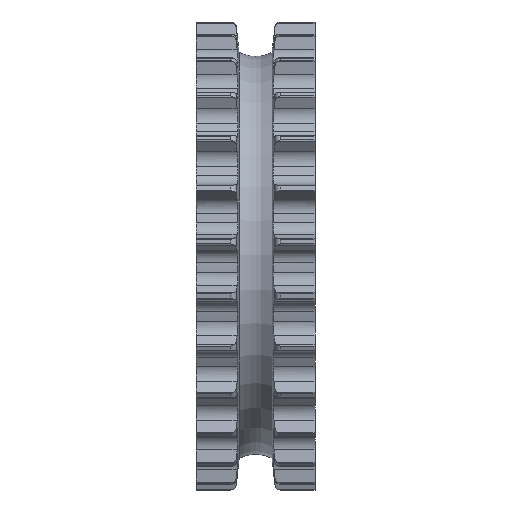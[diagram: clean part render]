
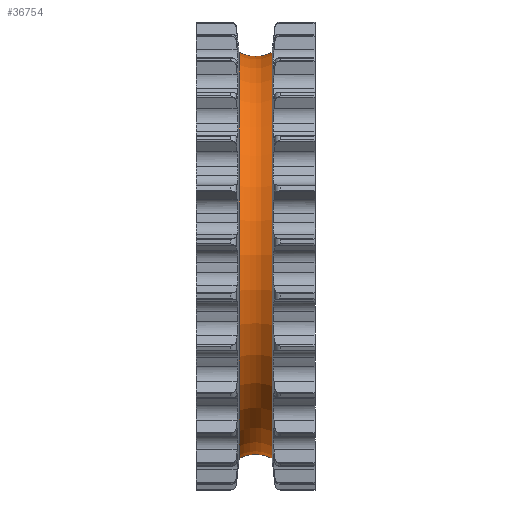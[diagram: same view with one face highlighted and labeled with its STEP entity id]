
A CAD part, front view. The second image highlights one B-rep face of the part: STEP entity #36754.
In plain terms, the highlighted toroidal (fillet/blend) face has major radius 83.51 mm and minor radius 12.7 mm.
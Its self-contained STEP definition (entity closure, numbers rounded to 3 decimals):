
#10976=CARTESIAN_POINT('',(0.,0.,-83.51));
#10977=DIRECTION('',(0.,-1.,0.));
#10978=DIRECTION('',(0.462,0.,0.887));
#10979=AXIS2_PLACEMENT_3D('',#10976,#10977,#10978);
#10984=CARTESIAN_POINT('',(0.,0.,83.51));
#10985=DIRECTION('',(0.,1.,0.));
#10986=DIRECTION('',(0.462,0.,-0.887));
#10987=AXIS2_PLACEMENT_3D('',#10984,#10985,#10986);
#10992=CARTESIAN_POINT('',(5.861,0.,0.));
#10993=DIRECTION('',(-1.,0.,0.));
#10994=DIRECTION('',(0.,0.,-1.));
#10995=AXIS2_PLACEMENT_3D('',#10992,#10993,#10994);
#11044=CARTESIAN_POINT('',(-5.861,0.,0.));
#11045=DIRECTION('',(-1.,0.,0.));
#11046=DIRECTION('',(0.,0.,-1.));
#11047=AXIS2_PLACEMENT_3D('',#11044,#11045,#11046);
#29289=CARTESIAN_POINT('',(5.861,0.,-72.243));
#29291=VERTEX_POINT('',#29289);
#29292=CARTESIAN_POINT('',(-5.861,0.,-72.243));
#29293=VERTEX_POINT('',#29292);
#29296=CARTESIAN_POINT('',(5.861,0.,
72.243));
#29297=CARTESIAN_POINT('',(-5.861,0.,
72.243));
#29298=VERTEX_POINT('',#29296);
#29299=VERTEX_POINT('',#29297);
#36742=CARTESIAN_POINT('',(0.,0.,0.));
#36743=DIRECTION('',(1.,0.,0.));
#36744=DIRECTION('',(0.,0.,1.));
#36745=AXIS2_PLACEMENT_3D('',#36742,#36743,#36744);
#36746=TOROIDAL_SURFACE('',#36745,83.51,12.7);
#36747=ORIENTED_EDGE('',*,*,#36732,.T.);
#36749=ORIENTED_EDGE('',*,*,#36748,.T.);
#36750=ORIENTED_EDGE('',*,*,#36735,.F.);
#36751=ORIENTED_EDGE('',*,*,#36464,.F.);
#36752=EDGE_LOOP('',(#36747,#36749,#36750,#36751));
#36753=FACE_OUTER_BOUND('',#36752,.F.);
#10980=CIRCLE('',#10979,12.7);
#10988=CIRCLE('',#10987,12.7);
#10996=CIRCLE('',#10995,72.243);
#11048=CIRCLE('',#11047,72.243);
#36464=EDGE_CURVE('',#29291,#29298,#10996,.T.);
#36732=EDGE_CURVE('',#29291,#29293,#10980,.T.);
#36735=EDGE_CURVE('',#29298,#29299,#10988,.T.);
#36748=EDGE_CURVE('',#29293,#29299,#11048,.T.);
#36754=ADVANCED_FACE('',(#36753),#36746,.F.);
